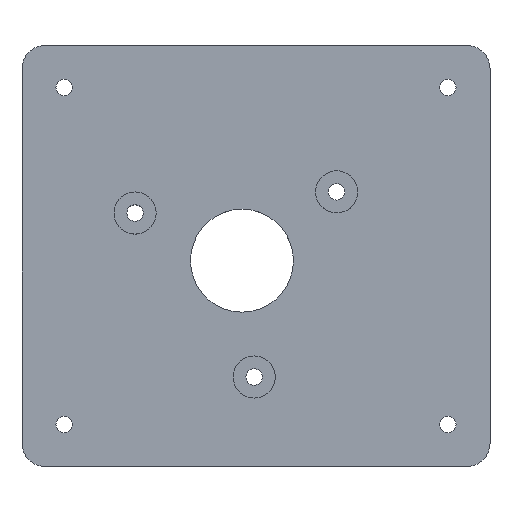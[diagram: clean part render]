
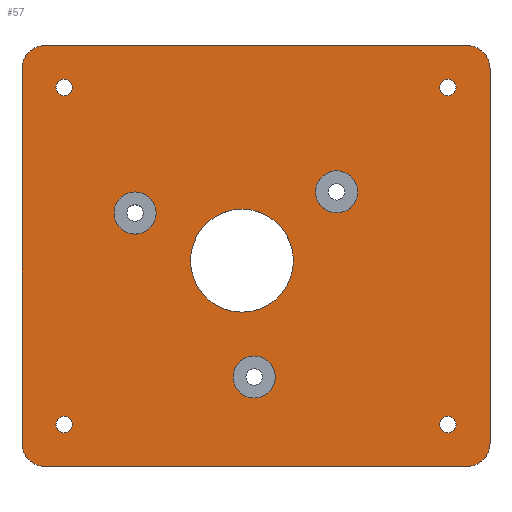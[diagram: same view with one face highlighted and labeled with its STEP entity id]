
A CAD part, top view. The second image highlights one B-rep face of the part: STEP entity #57.
In plain terms, the highlighted planar face has unit normal (0, 0, 1).
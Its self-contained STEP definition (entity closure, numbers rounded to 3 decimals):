
#21 = EDGE_CURVE('',#22,#24,#26,.T.);
#22 = VERTEX_POINT('',#23);
#23 = CARTESIAN_POINT('',(104.,48.,24.));
#24 = VERTEX_POINT('',#25);
#25 = CARTESIAN_POINT('',(104.,128.,24.));
#26 = LINE('',#27,#28);
#27 = CARTESIAN_POINT('',(104.,43.,24.));
#28 = VECTOR('',#29,1.);
#29 = DIRECTION('',(0.,1.,0.));
#57 = ADVANCED_FACE('',(#58,#119,#130,#141,#152,#163,#174,#185,#196),
  #207,.T.);
#58 = FACE_BOUND('',#59,.T.);
#59 = EDGE_LOOP('',(#60,#61,#70,#78,#87,#95,#104,#112));
#60 = ORIENTED_EDGE('',*,*,#21,.F.);
#61 = ORIENTED_EDGE('',*,*,#62,.T.);
#62 = EDGE_CURVE('',#22,#63,#65,.T.);
#63 = VERTEX_POINT('',#64);
#64 = CARTESIAN_POINT('',(109.,43.,24.));
#65 = CIRCLE('',#66,5.);
#66 = AXIS2_PLACEMENT_3D('',#67,#68,#69);
#67 = CARTESIAN_POINT('',(109.,48.,24.));
#68 = DIRECTION('',(-0.,0.,1.));
#69 = DIRECTION('',(0.,-1.,0.));
#70 = ORIENTED_EDGE('',*,*,#71,.T.);
#71 = EDGE_CURVE('',#63,#72,#74,.T.);
#72 = VERTEX_POINT('',#73);
#73 = CARTESIAN_POINT('',(199.,43.,24.));
#74 = LINE('',#75,#76);
#75 = CARTESIAN_POINT('',(104.,43.,24.));
#76 = VECTOR('',#77,1.);
#77 = DIRECTION('',(1.,0.,0.));
#78 = ORIENTED_EDGE('',*,*,#79,.F.);
#79 = EDGE_CURVE('',#80,#72,#82,.T.);
#80 = VERTEX_POINT('',#81);
#81 = CARTESIAN_POINT('',(204.,48.,24.));
#82 = CIRCLE('',#83,5.);
#83 = AXIS2_PLACEMENT_3D('',#84,#85,#86);
#84 = CARTESIAN_POINT('',(199.,48.,24.));
#85 = DIRECTION('',(-0.,-0.,-1.));
#86 = DIRECTION('',(0.,-1.,0.));
#87 = ORIENTED_EDGE('',*,*,#88,.T.);
#88 = EDGE_CURVE('',#80,#89,#91,.T.);
#89 = VERTEX_POINT('',#90);
#90 = CARTESIAN_POINT('',(204.,128.,24.));
#91 = LINE('',#92,#93);
#92 = CARTESIAN_POINT('',(204.,43.,24.));
#93 = VECTOR('',#94,1.);
#94 = DIRECTION('',(0.,1.,0.));
#95 = ORIENTED_EDGE('',*,*,#96,.T.);
#96 = EDGE_CURVE('',#89,#97,#99,.T.);
#97 = VERTEX_POINT('',#98);
#98 = CARTESIAN_POINT('',(199.,133.,24.));
#99 = CIRCLE('',#100,5.);
#100 = AXIS2_PLACEMENT_3D('',#101,#102,#103);
#101 = CARTESIAN_POINT('',(199.,128.,24.));
#102 = DIRECTION('',(-0.,0.,1.));
#103 = DIRECTION('',(0.,-1.,0.));
#104 = ORIENTED_EDGE('',*,*,#105,.F.);
#105 = EDGE_CURVE('',#106,#97,#108,.T.);
#106 = VERTEX_POINT('',#107);
#107 = CARTESIAN_POINT('',(109.,133.,24.));
#108 = LINE('',#109,#110);
#109 = CARTESIAN_POINT('',(104.,133.,24.));
#110 = VECTOR('',#111,1.);
#111 = DIRECTION('',(1.,0.,0.));
#112 = ORIENTED_EDGE('',*,*,#113,.F.);
#113 = EDGE_CURVE('',#24,#106,#114,.T.);
#114 = CIRCLE('',#115,5.);
#115 = AXIS2_PLACEMENT_3D('',#116,#117,#118);
#116 = CARTESIAN_POINT('',(109.,128.,24.));
#117 = DIRECTION('',(-0.,-0.,-1.));
#118 = DIRECTION('',(0.,-1.,0.));
#119 = FACE_BOUND('',#120,.T.);
#120 = EDGE_LOOP('',(#121));
#121 = ORIENTED_EDGE('',*,*,#122,.F.);
#122 = EDGE_CURVE('',#123,#123,#125,.T.);
#123 = VERTEX_POINT('',#124);
#124 = CARTESIAN_POINT('',(114.75,52.,24.));
#125 = CIRCLE('',#126,1.75);
#126 = AXIS2_PLACEMENT_3D('',#127,#128,#129);
#127 = CARTESIAN_POINT('',(113.,52.,24.));
#128 = DIRECTION('',(0.,0.,1.));
#129 = DIRECTION('',(1.,0.,0.));
#130 = FACE_BOUND('',#131,.T.);
#131 = EDGE_LOOP('',(#132));
#132 = ORIENTED_EDGE('',*,*,#133,.F.);
#133 = EDGE_CURVE('',#134,#134,#136,.T.);
#134 = VERTEX_POINT('',#135);
#135 = CARTESIAN_POINT('',(158.113,62.137,24.));
#136 = CIRCLE('',#137,4.5);
#137 = AXIS2_PLACEMENT_3D('',#138,#139,#140);
#138 = CARTESIAN_POINT('',(153.613,62.137,24.));
#139 = DIRECTION('',(0.,0.,1.));
#140 = DIRECTION('',(1.,0.,0.));
#141 = FACE_BOUND('',#142,.T.);
#142 = EDGE_LOOP('',(#143));
#143 = ORIENTED_EDGE('',*,*,#144,.F.);
#144 = EDGE_CURVE('',#145,#145,#147,.T.);
#145 = VERTEX_POINT('',#146);
#146 = CARTESIAN_POINT('',(162.,87.,24.));
#147 = CIRCLE('',#148,11.);
#148 = AXIS2_PLACEMENT_3D('',#149,#150,#151);
#149 = CARTESIAN_POINT('',(151.,87.,24.));
#150 = DIRECTION('',(0.,0.,1.));
#151 = DIRECTION('',(1.,0.,0.));
#152 = FACE_BOUND('',#153,.T.);
#153 = EDGE_LOOP('',(#154));
#154 = ORIENTED_EDGE('',*,*,#155,.F.);
#155 = EDGE_CURVE('',#156,#156,#158,.T.);
#156 = VERTEX_POINT('',#157);
#157 = CARTESIAN_POINT('',(196.75,52.,24.));
#158 = CIRCLE('',#159,1.75);
#159 = AXIS2_PLACEMENT_3D('',#160,#161,#162);
#160 = CARTESIAN_POINT('',(195.,52.,24.));
#161 = DIRECTION('',(0.,0.,1.));
#162 = DIRECTION('',(1.,0.,0.));
#163 = FACE_BOUND('',#164,.T.);
#164 = EDGE_LOOP('',(#165));
#165 = ORIENTED_EDGE('',*,*,#166,.F.);
#166 = EDGE_CURVE('',#167,#167,#169,.T.);
#167 = VERTEX_POINT('',#168);
#168 = CARTESIAN_POINT('',(132.661,97.168,24.));
#169 = CIRCLE('',#170,4.5);
#170 = AXIS2_PLACEMENT_3D('',#171,#172,#173);
#171 = CARTESIAN_POINT('',(128.161,97.168,24.));
#172 = DIRECTION('',(0.,0.,1.));
#173 = DIRECTION('',(1.,0.,0.));
#174 = FACE_BOUND('',#175,.T.);
#175 = EDGE_LOOP('',(#176));
#176 = ORIENTED_EDGE('',*,*,#177,.F.);
#177 = EDGE_CURVE('',#178,#178,#180,.T.);
#178 = VERTEX_POINT('',#179);
#179 = CARTESIAN_POINT('',(114.75,124.,24.));
#180 = CIRCLE('',#181,1.75);
#181 = AXIS2_PLACEMENT_3D('',#182,#183,#184);
#182 = CARTESIAN_POINT('',(113.,124.,24.));
#183 = DIRECTION('',(0.,0.,1.));
#184 = DIRECTION('',(1.,0.,0.));
#185 = FACE_BOUND('',#186,.T.);
#186 = EDGE_LOOP('',(#187));
#187 = ORIENTED_EDGE('',*,*,#188,.F.);
#188 = EDGE_CURVE('',#189,#189,#191,.T.);
#189 = VERTEX_POINT('',#190);
#190 = CARTESIAN_POINT('',(175.725,101.695,24.));
#191 = CIRCLE('',#192,4.5);
#192 = AXIS2_PLACEMENT_3D('',#193,#194,#195);
#193 = CARTESIAN_POINT('',(171.225,101.695,24.));
#194 = DIRECTION('',(0.,0.,1.));
#195 = DIRECTION('',(1.,0.,0.));
#196 = FACE_BOUND('',#197,.T.);
#197 = EDGE_LOOP('',(#198));
#198 = ORIENTED_EDGE('',*,*,#199,.F.);
#199 = EDGE_CURVE('',#200,#200,#202,.T.);
#200 = VERTEX_POINT('',#201);
#201 = CARTESIAN_POINT('',(196.75,124.,24.));
#202 = CIRCLE('',#203,1.75);
#203 = AXIS2_PLACEMENT_3D('',#204,#205,#206);
#204 = CARTESIAN_POINT('',(195.,124.,24.));
#205 = DIRECTION('',(0.,0.,1.));
#206 = DIRECTION('',(1.,0.,0.));
#207 = PLANE('',#208);
#208 = AXIS2_PLACEMENT_3D('',#209,#210,#211);
#209 = CARTESIAN_POINT('',(104.,43.,24.));
#210 = DIRECTION('',(0.,0.,1.));
#211 = DIRECTION('',(1.,0.,0.));
